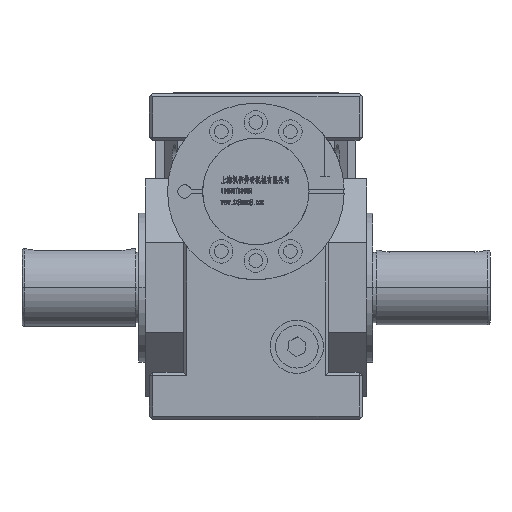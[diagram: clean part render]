
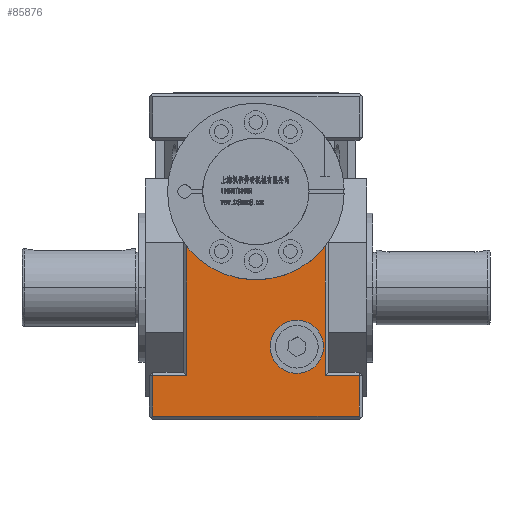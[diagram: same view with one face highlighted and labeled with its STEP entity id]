
A CAD part, top view. The second image highlights one B-rep face of the part: STEP entity #85876.
In plain terms, the highlighted planar face has unit normal (0, 0, 1).
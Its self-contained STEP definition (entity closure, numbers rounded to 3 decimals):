
#1044 = VECTOR ( 'NONE', #82458, 1000. ) ;
#2742 = ORIENTED_EDGE ( 'NONE', *, *, #108366, .T. ) ;
#3319 = CARTESIAN_POINT ( 'NONE',  ( 19.253, -27.925, 68.5 ) ) ;
#3852 = DIRECTION ( 'NONE',  ( -1., 0., 0. ) ) ;
#3864 = DIRECTION ( 'NONE',  ( 1., 0., 0. ) ) ;
#5054 = CIRCLE ( 'NONE', #42164, 12.5 ) ;
#6305 = DIRECTION ( 'NONE',  ( 0., -1., 0. ) ) ;
#8717 = CARTESIAN_POINT ( 'NONE',  ( 48.5, -60.5, 68.5 ) ) ;
#9634 = ORIENTED_EDGE ( 'NONE', *, *, #104085, .T. ) ;
#11013 = CARTESIAN_POINT ( 'NONE',  ( 32.5, 22.087, 68.5 ) ) ;
#11743 = ORIENTED_EDGE ( 'NONE', *, *, #77790, .T. ) ;
#14603 = LINE ( 'NONE', #82209, #91831 ) ;
#14818 = CARTESIAN_POINT ( 'NONE',  ( 50., 91., 68.5 ) ) ;
#15261 = ORIENTED_EDGE ( 'NONE', *, *, #61779, .F. ) ;
#15496 = VECTOR ( 'NONE', #3852, 1000. ) ;
#17986 = CARTESIAN_POINT ( 'NONE',  ( 19.253, -27.925, 68.5 ) ) ;
#18465 = VERTEX_POINT ( 'NONE', #56206 ) ;
#20451 = VECTOR ( 'NONE', #41184, 1000. ) ;
#20477 = LINE ( 'NONE', #53729, #15496 ) ;
#22034 = FACE_BOUND ( 'NONE', #31950, .T. ) ;
#22299 = CARTESIAN_POINT ( 'NONE',  ( -32.5, -41.5, 68.5 ) ) ;
#24266 = LINE ( 'NONE', #49761, #99142 ) ;
#24779 = EDGE_CURVE ( 'NONE', #97250, #45276, #14603, .T. ) ;
#25537 = LINE ( 'NONE', #94240, #102066 ) ;
#27212 = CARTESIAN_POINT ( 'NONE',  ( 48.5, -41.5, 68.5 ) ) ;
#28081 = AXIS2_PLACEMENT_3D ( 'NONE', #14818, #40293, #74094 ) ;
#31950 = EDGE_LOOP ( 'NONE', ( #90874, #15261 ) ) ;
#36218 = CARTESIAN_POINT ( 'NONE',  ( 31.753, -27.925, 68.5 ) ) ;
#40293 = DIRECTION ( 'NONE',  ( 0., 0., -1. ) ) ;
#41184 = DIRECTION ( 'NONE',  ( -1., 0., 0. ) ) ;
#42164 = AXIS2_PLACEMENT_3D ( 'NONE', #17986, #60071, #101668 ) ;
#43753 = CARTESIAN_POINT ( 'NONE',  ( 6.753, -27.925, 68.5 ) ) ;
#45276 = VERTEX_POINT ( 'NONE', #67778 ) ;
#46443 = DIRECTION ( 'NONE',  ( 0., 1., 0. ) ) ;
#46965 = FACE_OUTER_BOUND ( 'NONE', #101018, .T. ) ;
#48115 = CARTESIAN_POINT ( 'NONE',  ( 50., -60.5, 68.5 ) ) ;
#49761 = CARTESIAN_POINT ( 'NONE',  ( -32.5, -40., 68.5 ) ) ;
#53729 = CARTESIAN_POINT ( 'NONE',  ( -50., -41.5, 68.5 ) ) ;
#54767 = LINE ( 'NONE', #11013, #57745 ) ;
#56206 = CARTESIAN_POINT ( 'NONE',  ( 32.5, -41.5, 68.5 ) ) ;
#57115 = ORIENTED_EDGE ( 'NONE', *, *, #87975, .T. ) ;
#57285 = CIRCLE ( 'NONE', #85615, 41. ) ;
#57745 = VECTOR ( 'NONE', #46443, 1000. ) ;
#58049 = DIRECTION ( 'NONE',  ( 0., -1., 0. ) ) ;
#60071 = DIRECTION ( 'NONE',  ( 0., 0., 1. ) ) ;
#61779 = EDGE_CURVE ( 'NONE', #82554, #87520, #66129, .T. ) ;
#63018 = CARTESIAN_POINT ( 'NONE',  ( -32.5, 20.005, 68.5 ) ) ;
#63653 = ORIENTED_EDGE ( 'NONE', *, *, #24779, .T. ) ;
#63916 = ORIENTED_EDGE ( 'NONE', *, *, #102983, .T. ) ;
#64204 = DIRECTION ( 'NONE',  ( 0., 0., 1. ) ) ;
#66129 = CIRCLE ( 'NONE', #108644, 12.5 ) ;
#66650 = CARTESIAN_POINT ( 'NONE',  ( 50., -41.5, 68.5 ) ) ;
#66923 = VERTEX_POINT ( 'NONE', #63018 ) ;
#67778 = CARTESIAN_POINT ( 'NONE',  ( -48.5, -60.5, 68.5 ) ) ;
#74094 = DIRECTION ( 'NONE',  ( -1., 0., 0. ) ) ;
#74593 = DIRECTION ( 'NONE',  ( 0., 1., 0. ) ) ;
#77790 = EDGE_CURVE ( 'NONE', #80069, #18465, #108791, .T. ) ;
#79957 = VERTEX_POINT ( 'NONE', #22299 ) ;
#80069 = VERTEX_POINT ( 'NONE', #27212 ) ;
#81692 = EDGE_CURVE ( 'NONE', #18465, #90069, #54767, .T. ) ;
#82209 = CARTESIAN_POINT ( 'NONE',  ( -48.5, 91., 68.5 ) ) ;
#82458 = DIRECTION ( 'NONE',  ( 1., 0., 0. ) ) ;
#82554 = VERTEX_POINT ( 'NONE', #43753 ) ;
#82950 = PLANE ( 'NONE',  #28081 ) ;
#85615 = AXIS2_PLACEMENT_3D ( 'NONE', #89591, #100081, #74593 ) ;
#85876 = ADVANCED_FACE ( 'NONE', ( #22034, #46965 ), #82950, .F. ) ;
#85970 = CARTESIAN_POINT ( 'NONE',  ( -48.5, -41.5, 68.5 ) ) ;
#87520 = VERTEX_POINT ( 'NONE', #36218 ) ;
#87975 = EDGE_CURVE ( 'NONE', #66923, #79957, #24266, .T. ) ;
#89591 = CARTESIAN_POINT ( 'NONE',  ( 0., 45., 68.5 ) ) ;
#90069 = VERTEX_POINT ( 'NONE', #105873 ) ;
#90874 = ORIENTED_EDGE ( 'NONE', *, *, #109378, .F. ) ;
#91831 = VECTOR ( 'NONE', #6305, 1000. ) ;
#92068 = DIRECTION ( 'NONE',  ( 0., 1., 0. ) ) ;
#94240 = CARTESIAN_POINT ( 'NONE',  ( 48.5, -40., 68.5 ) ) ;
#96824 = EDGE_CURVE ( 'NONE', #66923, #90069, #57285, .T. ) ;
#97250 = VERTEX_POINT ( 'NONE', #85970 ) ;
#98006 = LINE ( 'NONE', #48115, #1044 ) ;
#99142 = VECTOR ( 'NONE', #58049, 1000. ) ;
#99352 = ORIENTED_EDGE ( 'NONE', *, *, #81692, .T. ) ;
#100081 = DIRECTION ( 'NONE',  ( 0., 0., 1. ) ) ;
#101018 = EDGE_LOOP ( 'NONE', ( #63653, #63916, #9634, #11743, #99352, #102746, #57115, #2742 ) ) ;
#101668 = DIRECTION ( 'NONE',  ( 1., 0., 0. ) ) ;
#101996 = VERTEX_POINT ( 'NONE', #8717 ) ;
#102066 = VECTOR ( 'NONE', #92068, 1000. ) ;
#102746 = ORIENTED_EDGE ( 'NONE', *, *, #96824, .F. ) ;
#102983 = EDGE_CURVE ( 'NONE', #45276, #101996, #98006, .T. ) ;
#104085 = EDGE_CURVE ( 'NONE', #101996, #80069, #25537, .T. ) ;
#105873 = CARTESIAN_POINT ( 'NONE',  ( 32.5, 20.005, 68.5 ) ) ;
#108366 = EDGE_CURVE ( 'NONE', #79957, #97250, #20477, .T. ) ;
#108644 = AXIS2_PLACEMENT_3D ( 'NONE', #3319, #64204, #3864 ) ;
#108791 = LINE ( 'NONE', #66650, #20451 ) ;
#109378 = EDGE_CURVE ( 'NONE', #87520, #82554, #5054, .T. ) ;
